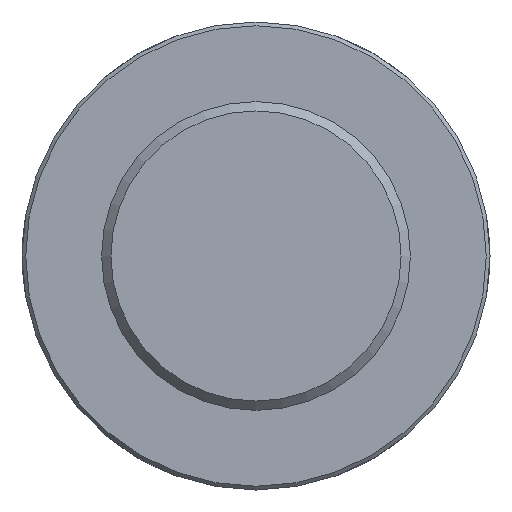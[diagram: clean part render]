
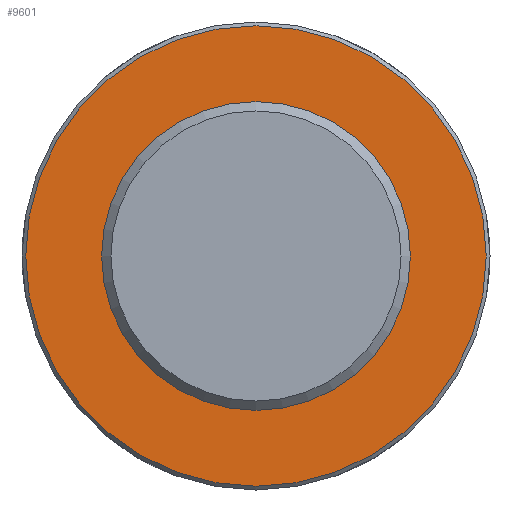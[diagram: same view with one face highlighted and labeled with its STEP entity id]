
A CAD part, front view. The second image highlights one B-rep face of the part: STEP entity #9601.
In plain terms, the highlighted planar face has unit normal (0, -1, 0) as drawn and (0, 1, 0) by its records, which use the part's own axes.
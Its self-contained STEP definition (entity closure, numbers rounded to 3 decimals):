
#73=CIRCLE('',#9949,123.);
#394=PLANE('',#9952);
#913=FACE_OUTER_BOUND('',#1512,.T.);
#1512=EDGE_LOOP('',(#8784));
#4632=VERTEX_POINT('',#17693);
#6020=EDGE_CURVE('',#4632,#4632,#73,.T.);
#8784=ORIENTED_EDGE('',*,*,#6020,.F.);
#9601=ADVANCED_FACE('',(#913),#394,.T.);
#9949=AXIS2_PLACEMENT_3D('',#17694,#11323,#11324);
#9952=AXIS2_PLACEMENT_3D('',#17932,#11329,#11330);
#11323=DIRECTION('center_axis',(0.,-1.,0.));
#11324=DIRECTION('ref_axis',(1.,0.,0.));
#11329=DIRECTION('center_axis',(0.,1.,0.));
#11330=DIRECTION('ref_axis',(0.,0.,1.));
#17693=CARTESIAN_POINT('',(-123.,120.,0.));
#17694=CARTESIAN_POINT('Origin',(0.,120.,0.));
#17932=CARTESIAN_POINT('Origin',(0.,120.,0.));
